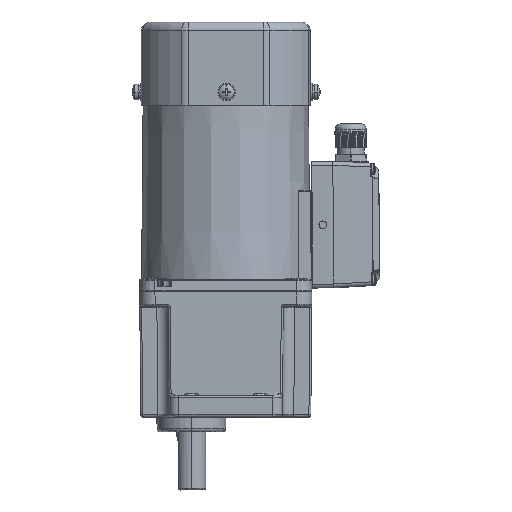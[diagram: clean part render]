
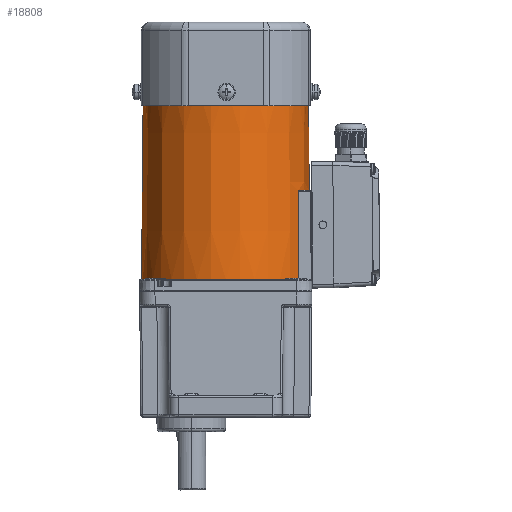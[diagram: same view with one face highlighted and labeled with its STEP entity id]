
A CAD part, front view. The second image highlights one B-rep face of the part: STEP entity #18808.
In plain terms, the highlighted conical face has half-angle 0.5 degrees and reference radius 43.555 mm.
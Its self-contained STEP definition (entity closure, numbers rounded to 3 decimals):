
#332 = CONICAL_SURFACE ( 'NONE', #11360, 43.555, 0.009 ) ;
#3376 = CARTESIAN_POINT ( 'NONE',  ( 38.038, -21.297, 53.5 ) ) ;
#3928 = CARTESIAN_POINT ( 'NONE',  ( 37.872, -21.597, 53.203 ) ) ;
#6219 = CARTESIAN_POINT ( 'NONE',  ( 38.105, -22., 7. ) ) ;
#7170 = DIRECTION ( 'NONE',  ( 0., 0., -1. ) ) ;
#8521 = CARTESIAN_POINT ( 'NONE',  ( 37.909, -21.528, 53.393 ) ) ;
#8986 = EDGE_CURVE ( 'NONE', #55181, #32298, #13969, .T. ) ;
#9044 = DIRECTION ( 'NONE',  ( 0.873, -0.489, 0. ) ) ;
#9149 = EDGE_CURVE ( 'NONE', #40698, #56663, #38759, .T. ) ;
#9205 = ORIENTED_EDGE ( 'NONE', *, *, #8986, .T. ) ;
#10231 = CARTESIAN_POINT ( 'NONE',  ( -44., 0., 7. ) ) ;
#10589 = CIRCLE ( 'NONE', #28070, 44. ) ;
#11082 = CARTESIAN_POINT ( 'NONE',  ( 37.872, -21.597, 53.203 ) ) ;
#11265 = CARTESIAN_POINT ( 'NONE',  ( 38.038, -21.297, 53.5 ) ) ;
#11360 = AXIS2_PLACEMENT_3D ( 'NONE', #47512, #7170, #56126 ) ;
#11491 = CIRCLE ( 'NONE', #43692, 43.11 ) ;
#13648 = CARTESIAN_POINT ( 'NONE',  ( 43.11, 0., 109. ) ) ;
#13969 = LINE ( 'NONE', #27246, #15337 ) ;
#15337 = VECTOR ( 'NONE', #31865, 1000. ) ;
#16913 = ORIENTED_EDGE ( 'NONE', *, *, #36696, .F. ) ;
#17674 = CARTESIAN_POINT ( 'NONE',  ( 0., 0., 53.5 ) ) ;
#17734 = CARTESIAN_POINT ( 'NONE',  ( 38.105, -22., 7. ) ) ;
#18370 = ORIENTED_EDGE ( 'NONE', *, *, #53379, .F. ) ;
#18808 = ADVANCED_FACE ( 'NONE', ( #21252 ), #332, .T. ) ;
#18890 = CARTESIAN_POINT ( 'NONE',  ( 38.028, -21.866, 22.401 ) ) ;
#19382 = CIRCLE ( 'NONE', #33203, 43.594 ) ;
#19431 = B_SPLINE_CURVE_WITH_KNOTS ( 'NONE', 3,
 ( #3928, #56648, #29861, #26397, #56931, #38780, #8521, #47468, #26110, #3376 ),
 .UNSPECIFIED., .F., .F.,
 ( 4, 2, 2, 2, 4 ),
 ( 0., 0.25, 0.375, 0.5, 1. ),
 .UNSPECIFIED. ) ;
#19835 = CARTESIAN_POINT ( 'NONE',  ( 43.594, 0., 53.5 ) ) ;
#20408 = VERTEX_POINT ( 'NONE', #19835 ) ;
#20985 = CARTESIAN_POINT ( 'NONE',  ( 43.11, 0., 109. ) ) ;
#21252 = FACE_OUTER_BOUND ( 'NONE', #30156, .T. ) ;
#21481 = VERTEX_POINT ( 'NONE', #20985 ) ;
#24585 = DIRECTION ( 'NONE',  ( 0., 0., 1. ) ) ;
#24857 = DIRECTION ( 'NONE',  ( 0., 0., 1. ) ) ;
#26110 = CARTESIAN_POINT ( 'NONE',  ( 37.991, -21.382, 53.5 ) ) ;
#26397 = CARTESIAN_POINT ( 'NONE',  ( 37.887, -21.568, 53.332 ) ) ;
#26898 = LINE ( 'NONE', #13648, #51711 ) ;
#27246 = CARTESIAN_POINT ( 'NONE',  ( -43.11, 0., 109. ) ) ;
#28070 = AXIS2_PLACEMENT_3D ( 'NONE', #36976, #24857, #28614 ) ;
#28614 = DIRECTION ( 'NONE',  ( -1., 0., 0. ) ) ;
#29192 = CARTESIAN_POINT ( 'NONE',  ( 0., 0., 109. ) ) ;
#29861 = CARTESIAN_POINT ( 'NONE',  ( 37.876, -21.589, 53.28 ) ) ;
#30156 = EDGE_LOOP ( 'NONE', ( #16913, #18370, #9205, #52957, #54526, #38329, #43617 ) ) ;
#31865 = DIRECTION ( 'NONE',  ( -0.009, 0., -1. ) ) ;
#32206 = EDGE_CURVE ( 'NONE', #56663, #54966, #19431, .T. ) ;
#32298 = VERTEX_POINT ( 'NONE', #10231 ) ;
#33203 = AXIS2_PLACEMENT_3D ( 'NONE', #17674, #36112, #9044 ) ;
#36112 = DIRECTION ( 'NONE',  ( 0., 0., 1. ) ) ;
#36696 = EDGE_CURVE ( 'NONE', #21481, #20408, #26898, .T. ) ;
#36976 = CARTESIAN_POINT ( 'NONE',  ( 0., 0., 7. ) ) ;
#37015 = CARTESIAN_POINT ( 'NONE',  ( 37.872, -21.597, 53.203 ) ) ;
#38329 = ORIENTED_EDGE ( 'NONE', *, *, #32206, .T. ) ;
#38759 = B_SPLINE_CURVE_WITH_KNOTS ( 'NONE', 3,
 ( #6219, #18890, #41075, #37015 ),
 .UNSPECIFIED., .F., .F.,
 ( 4, 4 ),
 ( 0., 1. ),
 .UNSPECIFIED. ) ;
#38780 = CARTESIAN_POINT ( 'NONE',  ( 37.903, -21.538, 53.379 ) ) ;
#40698 = VERTEX_POINT ( 'NONE', #17734 ) ;
#41075 = CARTESIAN_POINT ( 'NONE',  ( 37.95, -21.731, 37.802 ) ) ;
#43241 = CARTESIAN_POINT ( 'NONE',  ( -43.11, 0., 109. ) ) ;
#43617 = ORIENTED_EDGE ( 'NONE', *, *, #47049, .T. ) ;
#43692 = AXIS2_PLACEMENT_3D ( 'NONE', #29192, #24585, #46784 ) ;
#46784 = DIRECTION ( 'NONE',  ( -1., 0., 0. ) ) ;
#47049 = EDGE_CURVE ( 'NONE', #54966, #20408, #19382, .T. ) ;
#47468 = CARTESIAN_POINT ( 'NONE',  ( 37.95, -21.454, 53.469 ) ) ;
#47512 = CARTESIAN_POINT ( 'NONE',  ( 0., 0., 58. ) ) ;
#51711 = VECTOR ( 'NONE', #56887, 1000. ) ;
#52957 = ORIENTED_EDGE ( 'NONE', *, *, #53435, .T. ) ;
#53379 = EDGE_CURVE ( 'NONE', #55181, #21481, #11491, .T. ) ;
#53435 = EDGE_CURVE ( 'NONE', #32298, #40698, #10589, .T. ) ;
#54526 = ORIENTED_EDGE ( 'NONE', *, *, #9149, .T. ) ;
#54966 = VERTEX_POINT ( 'NONE', #11265 ) ;
#55181 = VERTEX_POINT ( 'NONE', #43241 ) ;
#56126 = DIRECTION ( 'NONE',  ( 1., 0., 0. ) ) ;
#56648 = CARTESIAN_POINT ( 'NONE',  ( 37.872, -21.596, 53.243 ) ) ;
#56663 = VERTEX_POINT ( 'NONE', #11082 ) ;
#56887 = DIRECTION ( 'NONE',  ( 0.009, 0., -1. ) ) ;
#56931 = CARTESIAN_POINT ( 'NONE',  ( 37.892, -21.559, 53.348 ) ) ;
